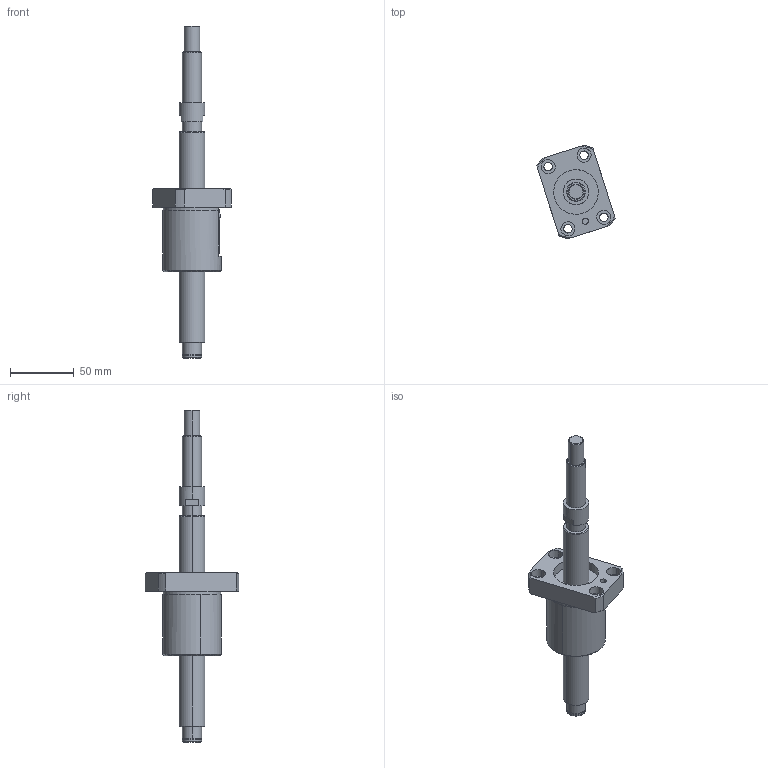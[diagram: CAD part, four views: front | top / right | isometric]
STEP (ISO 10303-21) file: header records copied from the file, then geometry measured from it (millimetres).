
FILE_DESCRIPTION (( 'STEP AP203' ), '1' );
FILE_NAME ('TS2010_assy_20160716.STEP', '2016-07-16T04:55:52', ( 'user' ), ( 'Hewlett-Packard Company' ), 'SwSTEP 2.0', 'SolidWorks 2014', '' );
FILE_SCHEMA (( 'CONFIG_CONTROL_DESIGN' ));
Length unit declared in the file: millimetre
Products named in the file (3): TS2010_nut; TS2010_screw; TS2010_assy_20160716
Assembly tree (2 placements, depth 2):
  TS2010_assy_20160716
    TS2010_nut
    TS2010_screw
Bounding box: 61.4 x 73.04 x 260 mm (x, y, z)
Volume: 160383.8 mm3; surface area: 38287.6 mm2
Topology: 2 solids, 2 shells, 111 faces, 263 edges, 170 vertices
Faces by surface type: cylinder 54, plane 33, cone 20, sphere 4
Entity records: 3558 total; most frequent: DIRECTION 607, CARTESIAN_POINT 603, ORIENTED_EDGE 518, EDGE_CURVE 259, AXIS2_PLACEMENT_3D 252, VERTEX_POINT 168, EDGE_LOOP 137, CIRCLE 136
